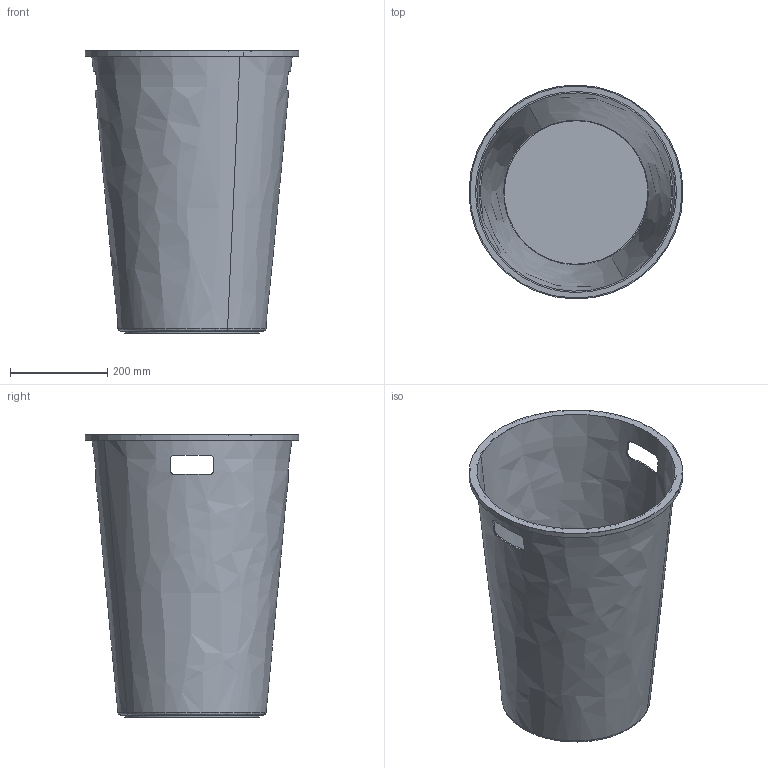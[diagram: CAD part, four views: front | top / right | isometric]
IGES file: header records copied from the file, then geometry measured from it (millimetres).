
Start section: START RECORD GO HERE.
Global section: file name: CESTO.igs; native system: DASSAULT SYSTEMES CATIA V5 R21 - www.3ds.com; preprocessor: CATIA Version 5 Release 21 ; author: luisg; organization: DESKTOP-0B5R3KV; date: 20241124.231528; units: millimetre
Bounding box: 439.88 x 439.88 x 580 mm (x, y, z)
Surface area: 1488939.1 mm2 (no closed solid volume)
Topology: 0 solids, 0 shells, 39 faces, 184 edges, 184 vertices
Faces by surface type: revolution 24, plane 15
